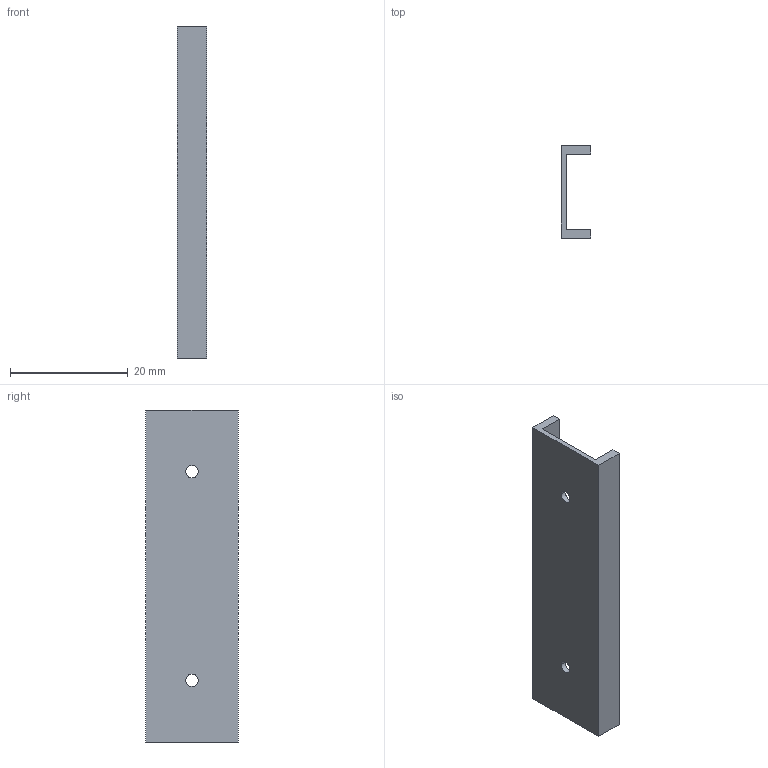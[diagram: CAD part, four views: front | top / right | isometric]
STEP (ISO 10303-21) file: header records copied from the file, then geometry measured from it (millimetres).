
FILE_DESCRIPTION(('Open CASCADE Model'),'2;1');
FILE_NAME('frame-side-rail.step','2026-11-14T14:31:49',('Author'),( 'Open CASCADE'),'Open CASCADE STEP processor 8.0','Open CASCADE 8.0' ,'Unknown');
FILE_SCHEMA(('AP242_MANAGED_MODEL_BASED_3D_ENGINEERING_MIM_LF {1 0 10303 442 1 1 4 }' ));
Length unit declared in the file: millimetre
Products named in the file (1): Frame Side Rail
Bounding box: 5 x 15.8 x 56.5 mm (x, y, z)
Volume: 1492.1 mm3; surface area: 2864.8 mm2
Topology: 1 solids, 1 shells, 14 faces, 36 edges, 24 vertices
Faces by surface type: plane 10, cylinder 4
Entity records: 926 total; most frequent: CARTESIAN_POINT 171, DIRECTION 142, LINE 92, VECTOR 92, ORIENTED_EDGE 72, PCURVE 72, DEFINITIONAL_REPRESENTATION 72, EDGE_CURVE 36
